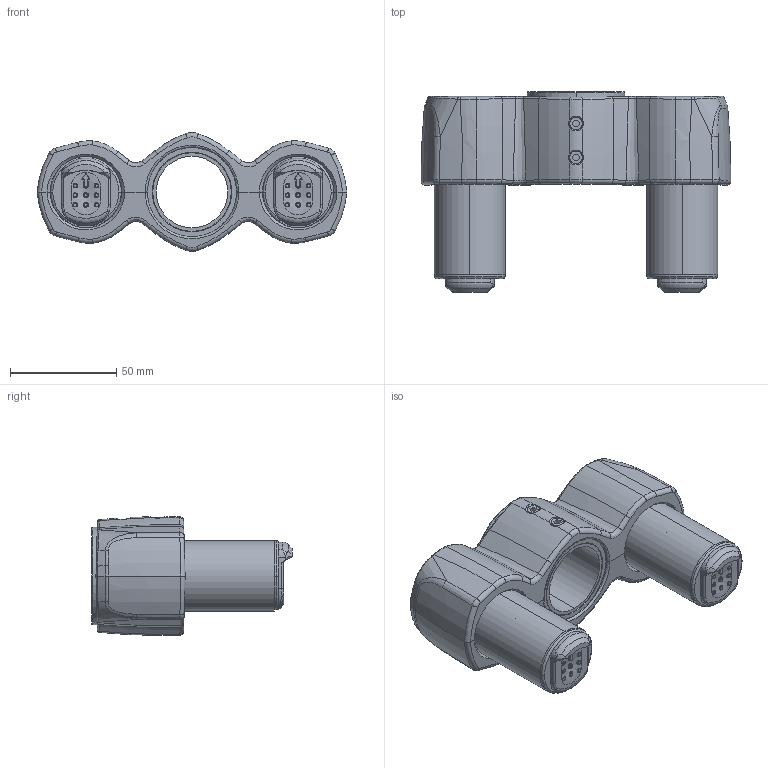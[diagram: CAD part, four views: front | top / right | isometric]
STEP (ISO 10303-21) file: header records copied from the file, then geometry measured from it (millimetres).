
FILE_DESCRIPTION((''),'2;1');
FILE_NAME('M3110_ASM','2013-04-24T',('B0540'),(''),'PRO/ENGINEER BY PARAMETRIC TECHNOLOGY CORPORATION, 2012360','PRO/ENGINEER BY PARAMETRIC TECHNOLOGY CORPORATION, 2012360','');
FILE_SCHEMA(('CONFIG_CONTROL_DESIGN'));
Length unit declared in the file: millimetre
Products named in the file (10): EM45111-10; EM45111-11; EM35111-59; EM45111-12-M6X6-STOP-SCREW; EM35121-30; EM35111-54; EM35111-38; EM35111-53; EM35111-07_ASM; M3110_ASM
Assembly tree (12 placements, depth 3):
  M3110_ASM
    EM45111-10
    EM45111-11
    EM35111-59
    EM45111-12-M6X6-STOP-SCREW  x2
    EM35121-30  x2
    EM35111-07_ASM  x2
      EM35111-54
      EM35111-38
      EM35111-53
Bounding box: 145.99 x 94.5 x 56.07 mm (x, y, z)
Volume: 195006.6 mm3; surface area: 108845.4 mm2
Topology: 13 solids, 13 shells, 980 faces, 2421 edges, 1474 vertices
Faces by surface type: bspline 411, plane 211, cylinder 170, torus 111, cone 71, sphere 6
Entity records: 42332 total; most frequent: CARTESIAN_POINT 29719, ORIENTED_EDGE 3028, DIRECTION 1855, EDGE_CURVE 1514, VERTEX_POINT 923, B_SPLINE_CURVE_WITH_KNOTS 805, AXIS2_PLACEMENT_3D 754, EDGE_LOOP 645
